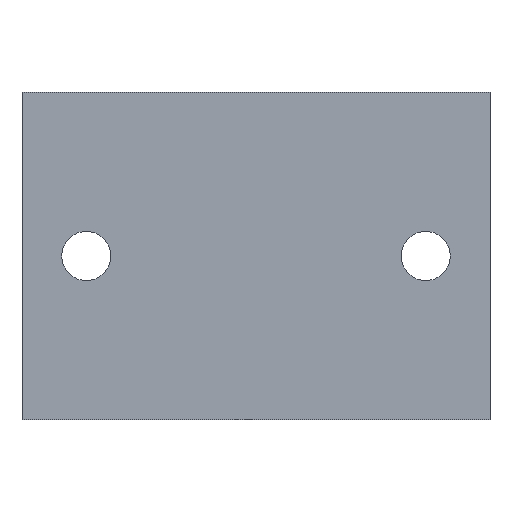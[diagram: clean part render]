
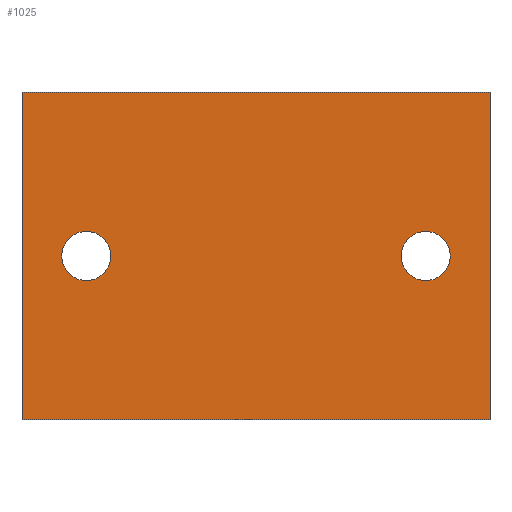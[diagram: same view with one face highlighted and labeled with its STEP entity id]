
A CAD part, front view. The second image highlights one B-rep face of the part: STEP entity #1025.
In plain terms, the highlighted planar face has unit normal (0, -1, 0).
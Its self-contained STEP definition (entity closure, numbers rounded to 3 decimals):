
#14 = CARTESIAN_POINT ( 'NONE',  ( -14.5, -16.5, 2.1 ) ) ;
#62 = VECTOR ( 'NONE', #605, 1000. ) ;
#83 = ORIENTED_EDGE ( 'NONE', *, *, #784, .F. ) ;
#93 = CARTESIAN_POINT ( 'NONE',  ( 20., -16.5, -14. ) ) ;
#97 = DIRECTION ( 'NONE',  ( 0., 0., -1. ) ) ;
#103 = DIRECTION ( 'NONE',  ( 0., 1., 0. ) ) ;
#109 = EDGE_LOOP ( 'NONE', ( #190, #763 ) ) ;
#117 = FACE_BOUND ( 'NONE', #109, .T. ) ;
#157 = AXIS2_PLACEMENT_3D ( 'NONE', #1331, #841, #868 ) ;
#167 = VERTEX_POINT ( 'NONE', #14 ) ;
#190 = ORIENTED_EDGE ( 'NONE', *, *, #332, .F. ) ;
#237 = CARTESIAN_POINT ( 'NONE',  ( -20., -16.5, 14. ) ) ;
#256 = DIRECTION ( 'NONE',  ( 0., 0., -1. ) ) ;
#258 = AXIS2_PLACEMENT_3D ( 'NONE', #1166, #1408, #1184 ) ;
#264 = VECTOR ( 'NONE', #256, 1000. ) ;
#302 = ORIENTED_EDGE ( 'NONE', *, *, #772, .T. ) ;
#310 = CARTESIAN_POINT ( 'NONE',  ( 14.5, -16.5, 2.1 ) ) ;
#332 = EDGE_CURVE ( 'NONE', #1200, #167, #881, .T. ) ;
#360 = CARTESIAN_POINT ( 'NONE',  ( 14.5, -16.5, 0. ) ) ;
#363 = CARTESIAN_POINT ( 'NONE',  ( -20., -16.5, 14. ) ) ;
#374 = VECTOR ( 'NONE', #1215, 1000. ) ;
#381 = ORIENTED_EDGE ( 'NONE', *, *, #1255, .T. ) ;
#384 = DIRECTION ( 'NONE',  ( 0., -1., 0. ) ) ;
#409 = EDGE_LOOP ( 'NONE', ( #381, #1269, #83, #302 ) ) ;
#424 = LINE ( 'NONE', #537, #374 ) ;
#435 = AXIS2_PLACEMENT_3D ( 'NONE', #1040, #103, #1371 ) ;
#491 = CARTESIAN_POINT ( 'NONE',  ( -20., -16.5, 14. ) ) ;
#537 = CARTESIAN_POINT ( 'NONE',  ( -20., -16.5, -14. ) ) ;
#586 = VERTEX_POINT ( 'NONE', #237 ) ;
#605 = DIRECTION ( 'NONE',  ( 1., 0., 0. ) ) ;
#617 = ORIENTED_EDGE ( 'NONE', *, *, #871, .F. ) ;
#639 = CARTESIAN_POINT ( 'NONE',  ( -20., -16.5, -14. ) ) ;
#653 = VERTEX_POINT ( 'NONE', #310 ) ;
#682 = FACE_BOUND ( 'NONE', #842, .T. ) ;
#698 = DIRECTION ( 'NONE',  ( 0., -1., 0. ) ) ;
#703 = CARTESIAN_POINT ( 'NONE',  ( 14.5, -16.5, -2.1 ) ) ;
#724 = VERTEX_POINT ( 'NONE', #93 ) ;
#746 = CARTESIAN_POINT ( 'NONE',  ( 20., -16.5, 14. ) ) ;
#763 = ORIENTED_EDGE ( 'NONE', *, *, #1121, .F. ) ;
#771 = DIRECTION ( 'NONE',  ( 0., 0., -1. ) ) ;
#772 = EDGE_CURVE ( 'NONE', #586, #1229, #1404, .T. ) ;
#784 = EDGE_CURVE ( 'NONE', #586, #1021, #1172, .T. ) ;
#803 = AXIS2_PLACEMENT_3D ( 'NONE', #1048, #384, #843 ) ;
#806 = FACE_OUTER_BOUND ( 'NONE', #409, .T. ) ;
#838 = VERTEX_POINT ( 'NONE', #703 ) ;
#841 = DIRECTION ( 'NONE',  ( 0., -1., 0. ) ) ;
#842 = EDGE_LOOP ( 'NONE', ( #617, #1307 ) ) ;
#843 = DIRECTION ( 'NONE',  ( 0., 0., -1. ) ) ;
#868 = DIRECTION ( 'NONE',  ( 0., 0., -1. ) ) ;
#871 = EDGE_CURVE ( 'NONE', #838, #653, #1127, .T. ) ;
#872 = LINE ( 'NONE', #746, #1019 ) ;
#881 = CIRCLE ( 'NONE', #157, 2.1 ) ;
#906 = CARTESIAN_POINT ( 'NONE',  ( 20., -16.5, 14. ) ) ;
#982 = EDGE_CURVE ( 'NONE', #653, #838, #1250, .T. ) ;
#1019 = VECTOR ( 'NONE', #771, 1000. ) ;
#1021 = VERTEX_POINT ( 'NONE', #906 ) ;
#1025 = ADVANCED_FACE ( 'NONE', ( #117, #682, #806 ), #1270, .F. ) ;
#1040 = CARTESIAN_POINT ( 'NONE',  ( -20., -16.5, 14. ) ) ;
#1048 = CARTESIAN_POINT ( 'NONE',  ( 14.5, -16.5, 0. ) ) ;
#1121 = EDGE_CURVE ( 'NONE', #167, #1200, #1149, .T. ) ;
#1127 = CIRCLE ( 'NONE', #803, 2.1 ) ;
#1149 = CIRCLE ( 'NONE', #258, 2.1 ) ;
#1166 = CARTESIAN_POINT ( 'NONE',  ( -14.5, -16.5, 0. ) ) ;
#1172 = LINE ( 'NONE', #491, #62 ) ;
#1184 = DIRECTION ( 'NONE',  ( 0., 0., -1. ) ) ;
#1198 = AXIS2_PLACEMENT_3D ( 'NONE', #360, #698, #97 ) ;
#1200 = VERTEX_POINT ( 'NONE', #1321 ) ;
#1215 = DIRECTION ( 'NONE',  ( 1., 0., 0. ) ) ;
#1229 = VERTEX_POINT ( 'NONE', #639 ) ;
#1250 = CIRCLE ( 'NONE', #1198, 2.1 ) ;
#1253 = EDGE_CURVE ( 'NONE', #1021, #724, #872, .T. ) ;
#1255 = EDGE_CURVE ( 'NONE', #1229, #724, #424, .T. ) ;
#1269 = ORIENTED_EDGE ( 'NONE', *, *, #1253, .F. ) ;
#1270 = PLANE ( 'NONE',  #435 ) ;
#1307 = ORIENTED_EDGE ( 'NONE', *, *, #982, .F. ) ;
#1321 = CARTESIAN_POINT ( 'NONE',  ( -14.5, -16.5, -2.1 ) ) ;
#1331 = CARTESIAN_POINT ( 'NONE',  ( -14.5, -16.5, 0. ) ) ;
#1371 = DIRECTION ( 'NONE',  ( 0., 0., 1. ) ) ;
#1404 = LINE ( 'NONE', #363, #264 ) ;
#1408 = DIRECTION ( 'NONE',  ( 0., -1., 0. ) ) ;
